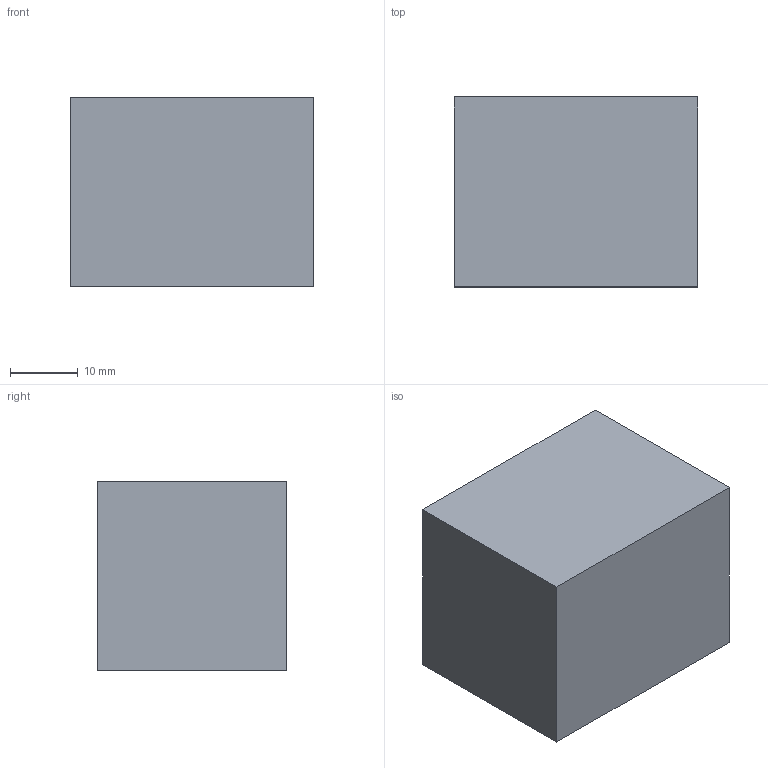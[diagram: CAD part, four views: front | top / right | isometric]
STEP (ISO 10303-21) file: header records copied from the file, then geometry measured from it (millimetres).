
FILE_DESCRIPTION(('Open CASCADE Model'),'2;1');
FILE_NAME('Open CASCADE Shape Model','2026-10-04T01:02:36',('Author'),( 'Open CASCADE'),'Open CASCADE STEP processor 8.0','Open CASCADE 8.0' ,'Unknown');
FILE_SCHEMA(('AUTOMOTIVE_DESIGN { 1 0 10303 214 1 1 1 1 }'));
Length unit declared in the file: millimetre
Products named in the file (1): Open CASCADE STEP translator 8.0 403
Bounding box: 36 x 28 x 28 mm (x, y, z)
Volume: 28224 mm3; surface area: 5600 mm2
Topology: 1 solids, 1 shells, 6 faces, 12 edges, 8 vertices
Faces by surface type: plane 6
Entity records: 322 total; most frequent: CARTESIAN_POINT 51, DIRECTION 50, LINE 36, VECTOR 36, ORIENTED_EDGE 24, PCURVE 24, DEFINITIONAL_REPRESENTATION 24, EDGE_CURVE 12
